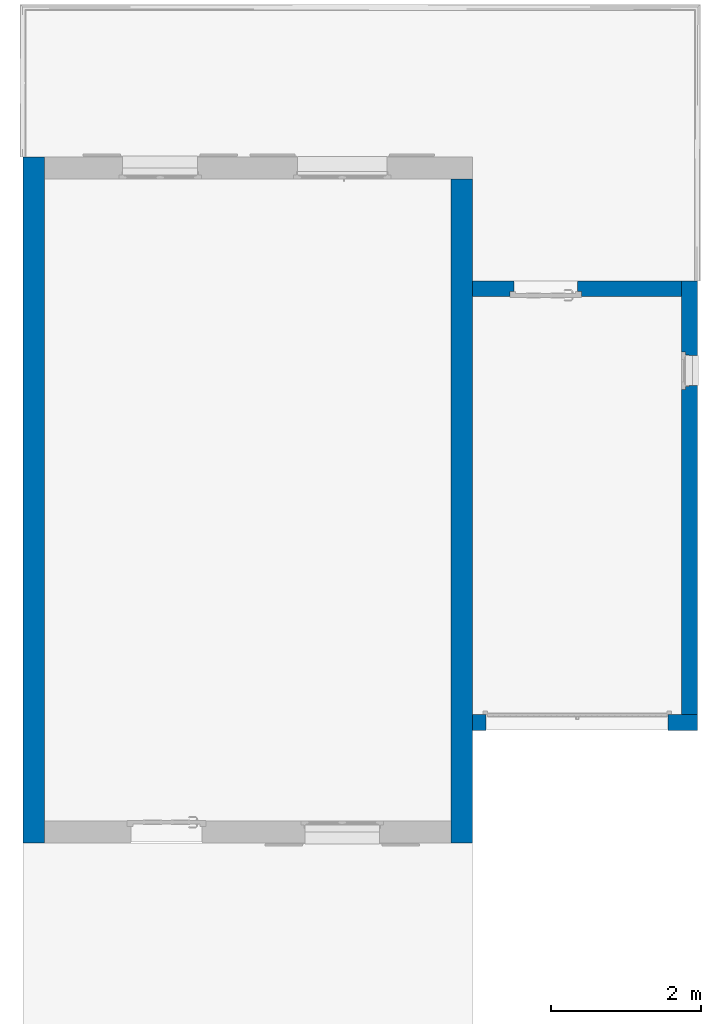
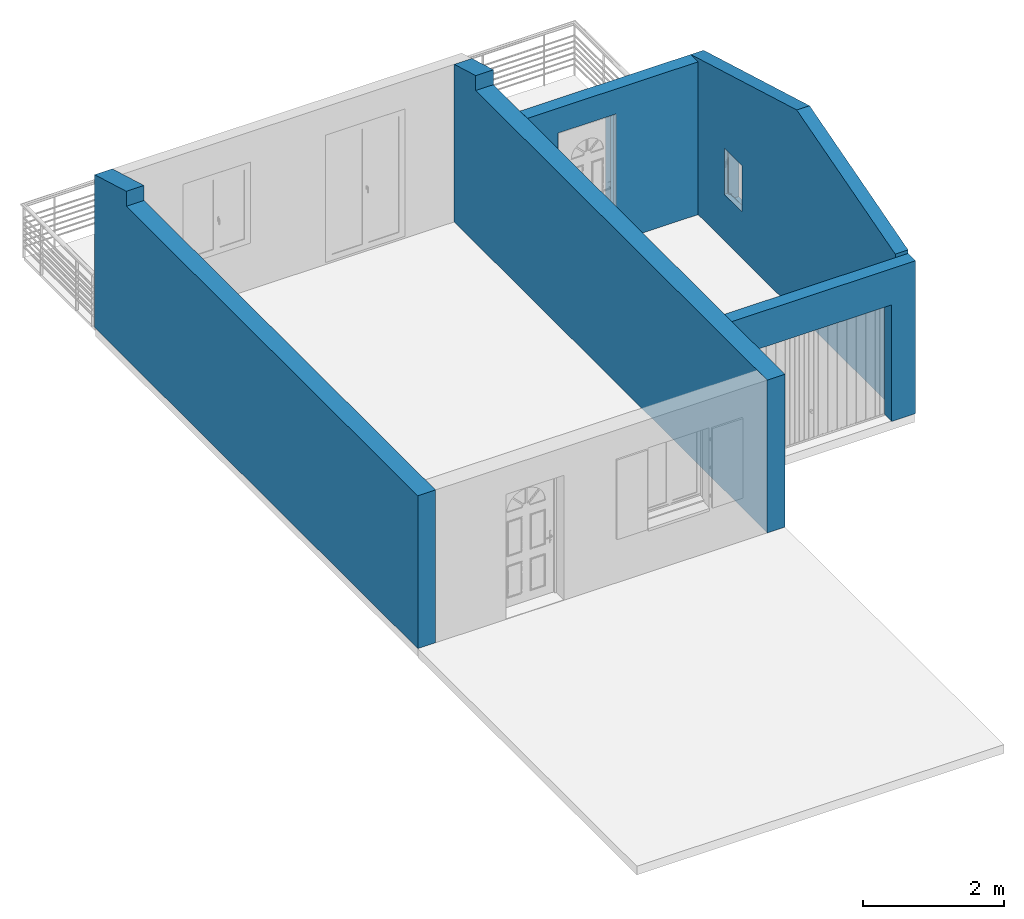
# One storey, part 3 of 6: 5 walls, 3 openings.
"""IFC2X3 building model written with IfcOpenShell, lengths in metres."""

from ifc_helpers import new_model, entity, si_unit, converted_unit, derived_unit, direction, frame, frame_2d, origin, place, context, subcontext, project, spatial, polyline, rectangle, extrude, clip, bounded_halfspace, faceted_brep, material, layer, layer_set, layer_usage, type_object, element, save


model = new_model("IFC2X3")

# Units and contexts
model_context = context("Model", 3, precision=1e-05, world=origin(), true_north=direction((6.12303176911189e-17, 1.0)))
context_of_model = context(None, 3, precision=1e-05, world=origin(), true_north=direction((6.12303176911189e-17, 1.0)))
body_context = subcontext(model_context, "Body", "Model", "MODEL_VIEW")
ifc_project = project(units=[si_unit("LENGTHUNIT", "METRE"), si_unit("AREAUNIT", "SQUARE_METRE"), si_unit("VOLUMEUNIT", "CUBIC_METRE"), converted_unit("PLANEANGLEUNIT", "DEGREE", entity("IfcRatioMeasure", 0.0174532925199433), si_unit("PLANEANGLEUNIT", "RADIAN"), dimensions=[0, 0, 0, 0, 0, 0, 0]), si_unit("MASSUNIT", "GRAM", prefix="KILO"), si_unit("TIMEUNIT", "SECOND"), si_unit("FREQUENCYUNIT", "HERTZ"), si_unit("THERMODYNAMICTEMPERATUREUNIT", "DEGREE_CELSIUS"), derived_unit("THERMALTRANSMITTANCEUNIT", [(si_unit("MASSUNIT", "GRAM", prefix="KILO"), 1), (si_unit("THERMODYNAMICTEMPERATUREUNIT", "KELVIN"), -1), (si_unit("TIMEUNIT", "SECOND"), -3)]), derived_unit("VOLUMETRICFLOWRATEUNIT", [(si_unit("LENGTHUNIT", "METRE"), 3), (si_unit("TIMEUNIT", "SECOND"), -1)]), si_unit("ELECTRICCURRENTUNIT", "AMPERE"), si_unit("ELECTRICVOLTAGEUNIT", "VOLT"), si_unit("POWERUNIT", "WATT"), si_unit("FORCEUNIT", "NEWTON", prefix="KILO"), si_unit("ILLUMINANCEUNIT", "LUX"), si_unit("LUMINOUSFLUXUNIT", "LUMEN"), si_unit("LUMINOUSINTENSITYUNIT", "CANDELA"), si_unit("PRESSUREUNIT", "PASCAL")], contexts=[model_context, context_of_model])

# Site, building, storey
site_placement = place(None, origin())
site = spatial("IfcSite", under=ifc_project, at=site_placement, Name="Surface", CompositionType="ELEMENT")
building_placement = place(site_placement, origin())
building = spatial("IfcBuilding", under=site, at=building_placement, CompositionType="ELEMENT")
storey_placement = place(building_placement, origin())
storey = spatial("IfcBuildingStorey", under=building, at=storey_placement, Name="Niveau 0", CompositionType="ELEMENT", Elevation=-1.94916083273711e-14)

# Walls
ifc_material_1 = material(Name="Maçonnerie - Enduit")
ifc_layer_1 = layer(ifc_material_1, 0.01)
ifc_material_2 = material(Name="Eléments de maçonnerie en béton")
ifc_layer_2 = layer(ifc_material_2, 0.2)
ifc_material_3 = material(Name="Maçonnerie - Isolant")
ifc_layer_3 = layer(ifc_material_3, 0.08)
ifc_layer_set_1 = layer_set([ifc_layer_1, ifc_layer_2, ifc_layer_3], Name="Mur de base:Ext. Parpaing 20 + Isolant 8")
ifc_layer_usage_1 = layer_usage(ifc_layer_set_1, "AXIS2", "NEGATIVE", 0.145)
wall_type_1 = type_object("IfcWallType", Name="Mur de base:Ext. Parpaing 20 + Isolant 8", PredefinedType="STANDARD", material=ifc_layer_set_1)
wall_1_placement = place(storey_placement, frame((-8.65409160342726, -7.35858265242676, 0.0), z_axis=(0.0, 0.0, 1.0), x_axis=(0.0, 1.0, 0.0)))
element("IfcWallStandardCase", 1, at=wall_1_placement, inside=storey, type_object=wall_type_1, material=ifc_layer_usage_1, Name="Mur de base:Ext. Parpaing 20 + Isolant 8", ObjectType="Mur de base:Ext. Parpaing 20 + Isolant 8", context=body_context, shape_type="Clipping", body=[
    clip(clip(extrude(rectangle(XDim=9.15, YDim=0.289999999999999, at=frame_2d((4.575, 8.32667268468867e-17), x_axis=(-1.0, 0.0))), origin(), (0.0, 0.0, 1.0), 2.89807084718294), bounded_halfspace(frame((8.25000000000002, -0.145000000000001, 2.89807084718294), z_axis=(0.275637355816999, 0.0, 0.961261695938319), x_axis=(0.0, 1.0, 0.0)), False, frame((8.25000000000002, -0.145000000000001, 2.89807084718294)), polyline([(0.0, 0.0), (0.609999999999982, 0.0), (0.899999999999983, 0.0), (0.899999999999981, 0.290000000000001), (0.0, 0.29), (0.0, 0.0)]))), bounded_halfspace(frame((0.0, -0.145000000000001, 2.64000000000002), z_axis=(0.0, 0.0, 1.0), x_axis=(0.0, 1.0, 0.0)), False, frame((0.0, -0.145000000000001, 2.64000000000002)), polyline([(0.0, 0.0), (0.29, 0.0), (8.25000000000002, 0.0), (8.25000000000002, 0.29), (0.0, 0.29), (0.0, 0.0)]))),
])
ifc_layer_usage_2 = layer_usage(ifc_layer_set_1, "AXIS2", "NEGATIVE", 0.145)
wall_2_placement = place(storey_placement, frame((-2.94409160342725, 1.50141734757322, 0.0), z_axis=(0.0, 0.0, 1.0), x_axis=(0.0, -1.0, 0.0)))
element("IfcWallStandardCase", 2, at=wall_2_placement, inside=storey, type_object=wall_type_1, material=ifc_layer_usage_2, Name="Mur de base:Ext. Parpaing 20 + Isolant 8", ObjectType="Mur de base:Ext. Parpaing 20 + Isolant 8", context=body_context, shape_type="Clipping", body=[
    clip(clip(extrude(rectangle(XDim=8.85999999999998, YDim=0.29, at=frame_2d((4.42999999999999, 4.16333634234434e-17), x_axis=(-1.0, 0.0))), origin(), (0.0, 0.0, 1.0), 2.89807084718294), bounded_halfspace(frame((0.0, -0.145, 2.72315616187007), z_axis=(-0.275637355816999, 0.0, 0.961261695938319), x_axis=(0.0, -1.0, 0.0)), False, frame((0.0, -0.145, 2.72315616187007)), polyline([(0.0, 0.0), (0.609999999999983, 0.0), (0.609999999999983, 0.290000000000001), (0.0, 0.29), (0.0, 0.0)]))), bounded_halfspace(frame((0.609999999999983, -0.145, 2.64000000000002), z_axis=(0.0, 0.0, 1.0), x_axis=(0.0, 1.0, 0.0)), False, frame((0.609999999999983, -0.145, 2.64000000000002)), polyline([(0.0, 0.0), (7.96, 0.0), (8.25, 0.0), (8.25, 0.29), (6.75, 0.29), (6.54, 0.29), (0.96, 0.290000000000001), (0.75, 0.29), (0.0, 0.29), (0.0, 0.0)]))),
])

# Wall, opening
ifc_layer_4 = layer(ifc_material_1, 0.01)
ifc_layer_5 = layer(ifc_material_2, 0.2)
ifc_layer_set_2 = layer_set([ifc_layer_4, ifc_layer_5], Name="Mur de base:Ext. Parpaing 20")
ifc_layer_usage_3 = layer_usage(ifc_layer_set_2, "AXIS2", "POSITIVE", -0.105)
wall_type_2 = type_object("IfcWallType", Name="Mur de base:Ext. Parpaing 20", PredefinedType="STANDARD", material=ifc_layer_set_2)
wall_3_placement = place(storey_placement, frame((-2.79909160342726, -5.75358265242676, 0.0)))
wall_3 = element("IfcWallStandardCase", 3, at=wall_3_placement, inside=storey, type_object=wall_type_2, material=ifc_layer_usage_3, Name="Mur de base:Ext. Parpaing 20", ObjectType="Mur de base:Ext. Parpaing 20", context=body_context, shape_type="SweptSolid", body=[
    extrude(rectangle(XDim=2.99999999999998, YDim=0.21, at=frame_2d((1.49999999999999, 0.0), x_axis=(-1.0, 0.0))), origin(), (0.0, 0.0, 1.0), 2.64000000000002),
])
opening_1_placement = place(wall_3_placement, frame((0.179999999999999, -0.405000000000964, 0.0)))
element("IfcOpeningElement", 4, at=opening_1_placement, cuts=wall_3, Name="Mur de base:Ext. Parpaing 20", ObjectType="Opening", context=body_context, shape_type="SweptSolid", body=[
    extrude(rectangle(XDim=2.01500000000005, YDim=2.42999999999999, at=frame_2d((0.0, -3.33066907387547e-16), x_axis=(1.0, 0.0))), frame((1.215, 0.0, 1.00750000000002), z_axis=(0.0, 1.0, 0.0), x_axis=(0.0, 0.0, -1.0)), (0.0, 0.0, 1.0), 0.810000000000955),
])

ifc_layer_usage_4 = layer_usage(ifc_layer_set_2, "AXIS2", "POSITIVE", -0.105)
wall_4_placement = place(storey_placement, frame((0.0959083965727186, -5.64858265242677, 0.0), z_axis=(0.0, 0.0, 1.0), x_axis=(0.0, 1.0, 0.0)))
wall_4 = element("IfcWallStandardCase", 5, at=wall_4_placement, inside=storey, type_object=wall_type_2, material=ifc_layer_usage_4, Name="Mur de base:Ext. Parpaing 20", ObjectType="Mur de base:Ext. Parpaing 20", context=body_context, shape_type="Clipping", body=[
    clip(clip(extrude(rectangle(XDim=5.79, YDim=0.21, at=frame_2d((2.895, 1.38777878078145e-17), x_axis=(-1.0, 0.0))), origin(), (0.0, 0.0, 1.0), 3.50023615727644), bounded_halfspace(frame((0.0, -0.105, 2.70021653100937), z_axis=(-0.275637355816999, 0.0, 0.961261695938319), x_axis=(0.0, -1.0, 0.0)), False, frame((0.0, -0.105, 2.70021653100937)), polyline([(0.0, 0.0), (2.79, 0.0), (2.79, 0.21), (0.0, 0.21), (0.0, 0.0)]))), bounded_halfspace(frame((2.79, -0.105, 3.50023615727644), z_axis=(0.275637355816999, 0.0, 0.961261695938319), x_axis=(0.0, 1.0, 0.0)), False, frame((2.79, -0.105, 3.50023615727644)), polyline([(0.0, 0.0), (3.0, 0.0), (3.0, 0.21), (0.0, 0.21), (0.0, 0.0)]))),
])
opening_2_placement = place(wall_4_placement, frame((4.34, 0.499999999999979, 0.72), z_axis=(0.0, 0.0, 1.0), x_axis=(0.0, -1.0, 0.0)))
element("IfcOpeningElement", 6, at=opening_2_placement, cuts=wall_4, Name="Mur de base:Ext. Parpaing 20", ObjectType="Opening", context=body_context, shape_type="Brep", body=[
    faceted_brep([(0.474999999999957, 0.45, 0.0799999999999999), (0.495000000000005, 0.45, 0.0799999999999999), (0.495000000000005, 0.45, 0.83), (1.0, 0.449999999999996, 0.83), (1.0, 0.449999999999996, 0.0), (0.474999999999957, 0.45, 0.0), (0.0, 0.0500000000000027, 0.0799999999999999), (0.395, 0.05, 0.0799999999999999), (0.395, 0.05, 0.83), (0.0, 0.0500000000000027, 0.83), (0.0, 0.450000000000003, 0.0799999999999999), (0.395000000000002, 0.45, 0.0799999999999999), (0.395000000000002, 0.5, 0.0799999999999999), (0.445000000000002, 0.499999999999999, 0.0799999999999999), (0.445000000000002, 0.46, 0.0799999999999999), (0.495000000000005, 0.459999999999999, 0.0799999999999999), (0.474999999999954, 0.0499999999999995, 0.0799999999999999), (0.495000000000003, 0.0499999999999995, 0.0799999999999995), (0.495000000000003, 0.0399999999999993, 0.0799999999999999), (0.445, 0.0399999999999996, 0.0799999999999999), (0.444999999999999, 0.0, 0.0799999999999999), (0.395, 0.0, 0.0799999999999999), (0.0, 0.450000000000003, 0.83), (0.495000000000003, 0.0499999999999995, 0.83), (1.0, 0.0499999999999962, 0.83), (1.0, 0.0499999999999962, 0.0), (0.474999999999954, 0.0499999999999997, 0.0), (0.395000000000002, 0.5, 0.879999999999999), (0.445000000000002, 0.499999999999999, 0.879999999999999), (0.444999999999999, 0.0, 0.879999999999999), (0.445, 0.0399999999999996, 0.84), (0.445000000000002, 0.46, 0.84), (0.495000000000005, 0.459999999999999, 0.84), (0.495000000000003, 0.0399999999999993, 0.84), (0.395000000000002, 0.45, 0.83), (0.395, 0.0, 0.879999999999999)], [[[0, 1, 2, 3, 4, 5]], [[6, 7, 8, 9]], [[10, 11, 12, 13, 14, 15, 1, 0, 16, 17, 18, 19, 20, 21, 7, 6]], [[10, 6, 9, 22]], [[3, 2, 23, 24]], [[3, 24, 25, 4]], [[4, 25, 26, 5]], [[5, 26, 16, 0]], [[12, 27, 28, 13]], [[13, 28, 29, 20, 19, 30, 31, 14]], [[14, 31, 32, 15]], [[15, 32, 33, 18, 17, 23, 2, 1]], [[11, 34, 8, 7, 21, 35, 27, 12]], [[27, 35, 29, 28]], [[30, 33, 32, 31]], [[29, 35, 21, 20]], [[19, 18, 33, 30]], [[9, 8, 34, 22]], [[24, 23, 17, 16, 26, 25]], [[22, 34, 11, 10]]]),
])

ifc_layer_usage_5 = layer_usage(ifc_layer_set_2, "AXIS2", "POSITIVE", -0.105)
wall_5_placement = place(storey_placement, frame((-0.00909160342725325, 0.0364173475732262, 0.0), z_axis=(0.0, 0.0, 1.0), x_axis=(-1.0, 0.0, 0.0)))
wall_5 = element("IfcWallStandardCase", 7, at=wall_5_placement, inside=storey, type_object=wall_type_2, material=ifc_layer_usage_5, Name="Mur de base:Ext. Parpaing 20", ObjectType="Mur de base:Ext. Parpaing 20", context=body_context, shape_type="SweptSolid", body=[
    extrude(rectangle(XDim=2.79, YDim=0.21, at=frame_2d((1.395, 0.0), x_axis=(-1.0, 0.0))), origin(), (0.0, 0.0, 1.0), 2.64000000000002),
])
opening_3_placement = place(wall_5_placement, frame((2.29, 0.404999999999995, 0.0), z_axis=(0.0, 0.0, 1.0), x_axis=(-1.0, 0.0, 0.0)))
element("IfcOpeningElement", 8, at=opening_3_placement, cuts=wall_5, Name="Mur de base:Ext. Parpaing 20", ObjectType="Opening", context=body_context, shape_type="Brep", body=[
    faceted_brep([(0.89999999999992, 0.810000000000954, 2.16000000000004), (0.0500000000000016, 0.810000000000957, 2.16000000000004), (0.05, 0.370000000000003, 2.16000000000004), (0.899999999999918, 0.37, 2.16000000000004), (0.0500000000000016, 0.810000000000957, 0.0), (0.89999999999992, 0.810000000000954, 0.0), (0.899999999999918, 0.37, 0.0), (0.949999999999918, 0.37, 0.0), (0.949999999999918, 0.3, 0.0), (0.899999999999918, 0.3, 0.0), (0.899999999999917, 0.0, 0.0), (0.0499999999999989, 0.0, 0.0), (0.05, 0.300000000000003, 0.0), (0.0, 0.300000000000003, 0.0), (0.0, 0.370000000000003, 0.0), (0.05, 0.370000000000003, 0.0), (0.899999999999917, 0.0, 2.16000000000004), (0.0499999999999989, 0.0, 2.16000000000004), (0.949999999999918, 0.3, 2.21000000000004), (0.0, 0.300000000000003, 2.21000000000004), (0.05, 0.300000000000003, 2.16000000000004), (0.899999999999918, 0.3, 2.16000000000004), (0.949999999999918, 0.37, 2.21000000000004), (0.0, 0.370000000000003, 2.21000000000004)], [[[0, 1, 2, 3]], [[4, 5, 6, 7, 8, 9, 10, 11, 12, 13, 14, 15]], [[1, 0, 5, 4]], [[5, 0, 3, 6]], [[16, 17, 11, 10]], [[1, 4, 15, 2]], [[9, 8, 18, 19, 13, 12, 20, 21]], [[8, 7, 22, 18]], [[7, 6, 3, 2, 15, 14, 23, 22]], [[19, 18, 22, 23]], [[13, 19, 23, 14]], [[11, 17, 20, 12]], [[16, 10, 9, 21]], [[17, 16, 21, 20]]]),
])

save(model, "model.ifc")
